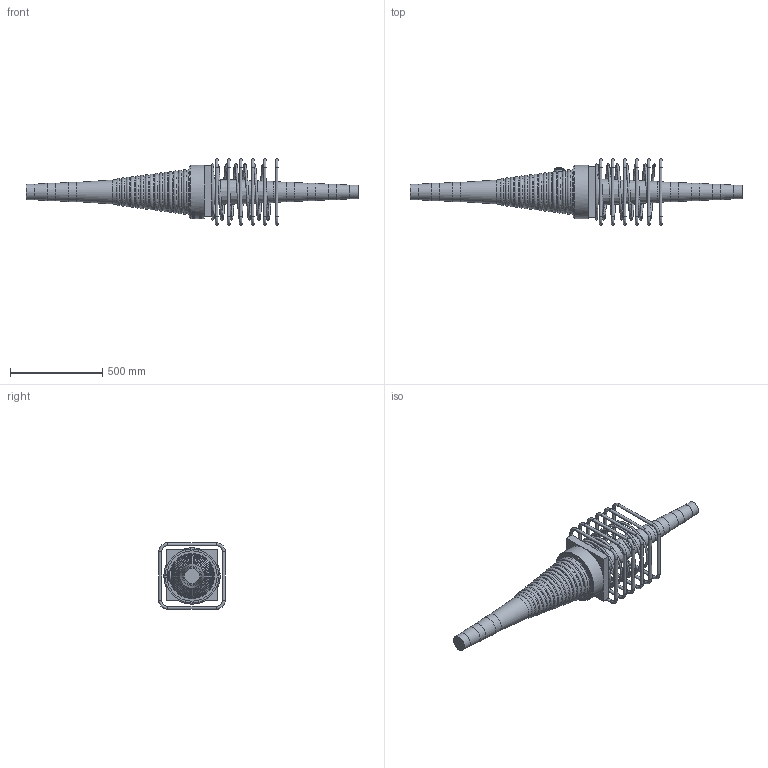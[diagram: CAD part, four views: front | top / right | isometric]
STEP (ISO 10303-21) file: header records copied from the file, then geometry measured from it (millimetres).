
FILE_DESCRIPTION(/* description */ (''),/* implementation_level */ '2;1');
FILE_NAME(/* name */ 'Z:\04 Publications\05 Give-out\BBR\6_3D_Models\BBR VT CONA CMI\BBR VT CONA CMI SP\01306\BBR VT CONA CMI SP 1306_Couler K Assembly_CS-34,28.stp',/* time_stamp */ '2017-05-10T09:00:15+02:00',/* author */ ('IP'),/* organization */ (''),/* preprocessor_version */ 'ST-DEVELOPER v16.1',/* originating_system */ 'Autodesk Inventor 2016',/* authorisation */ '');
FILE_SCHEMA (('AUTOMOTIVE_DESIGN { 1 0 10303 214 3 1 1 }'));
Products named in the file (1): BBR VT CONA CMI SP 1306_Couler K Assembly_CS-34,28
Bounding box: 1801 x 360 x 360 mm (x, y, z)
Volume: 34044810.8 mm3; surface area: 1558405.6 mm2
Topology: 8 solids, 8 shells, 886 faces, 2305 edges, 1482 vertices
Faces by surface type: bspline 423, plane 267, cylinder 98, torus 81, cone 17
Full cylindrical faces by diameter (mm): 16 x24, 34 x1, 57 x1, 74 x1, 84 x2, 94 x2, 104 x2, 273 x1, 290 x1
Entity records: 39926 total; most frequent: CARTESIAN_POINT 21076, ORIENTED_EDGE 4340, DIRECTION 2674, EDGE_CURVE 2167, VERTEX_POINT 1478, EDGE_LOOP 1082, LINE 896, VECTOR 896
